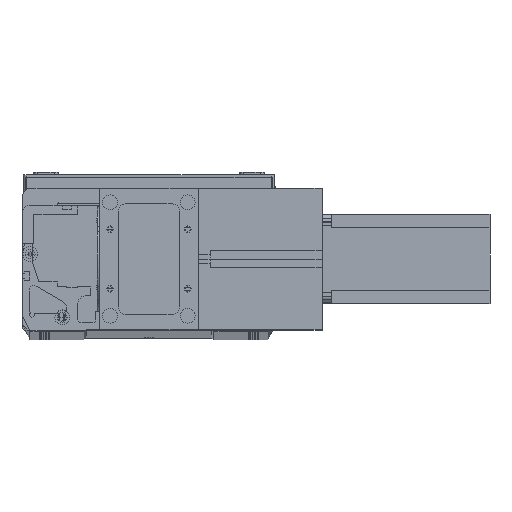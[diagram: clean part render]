
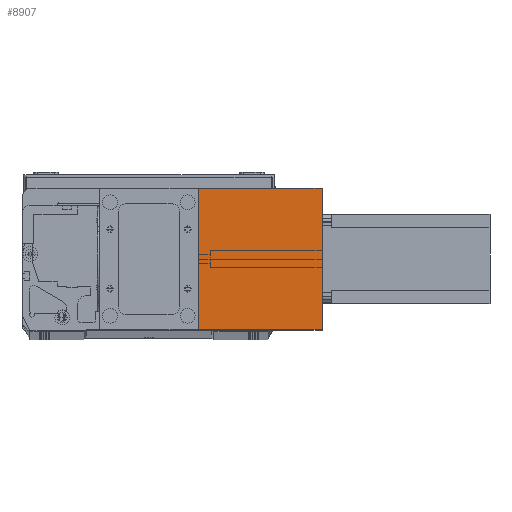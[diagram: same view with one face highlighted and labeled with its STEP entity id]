
A CAD part, top view. The second image highlights one B-rep face of the part: STEP entity #8907.
In plain terms, the highlighted planar face has unit normal (0, 0, 1) as drawn and (1, 0, 0) by its records, which use the part's own axes.
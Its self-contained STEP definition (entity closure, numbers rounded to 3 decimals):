
#1008 = VECTOR ( 'NONE', #29079, 1000. ) ;
#1607 = VERTEX_POINT ( 'NONE', #4510 ) ;
#4510 = CARTESIAN_POINT ( 'NONE',  ( 82., 95., 83. ) ) ;
#5757 = VECTOR ( 'NONE', #25900, 1000. ) ;
#6586 = VECTOR ( 'NONE', #14716, 1000. ) ;
#7299 = LINE ( 'NONE', #8988, #5757 ) ;
#7317 = DIRECTION ( 'NONE',  ( 0., 0., -1. ) ) ;
#7322 = LINE ( 'NONE', #12238, #6586 ) ;
#7683 = LINE ( 'NONE', #14764, #1008 ) ;
#7734 = LINE ( 'NONE', #24232, #26287 ) ;
#8689 = CARTESIAN_POINT ( 'NONE',  ( 82., 0., 83. ) ) ;
#8907 = ADVANCED_FACE ( 'NONE', ( #17819 ), #9125, .F. ) ;
#8909 = DIRECTION ( 'NONE',  ( -1., 0., 0. ) ) ;
#8988 = CARTESIAN_POINT ( 'NONE',  ( 82., 95., 83. ) ) ;
#9125 = PLANE ( 'NONE',  #27420 ) ;
#9436 = DIRECTION ( 'NONE',  ( 0., 0., 1. ) ) ;
#9825 = CARTESIAN_POINT ( 'NONE',  ( 82., 0., 83. ) ) ;
#9863 = ORIENTED_EDGE ( 'NONE', *, *, #26375, .T. ) ;
#12238 = CARTESIAN_POINT ( 'NONE',  ( 82., 0., 0. ) ) ;
#13681 = ORIENTED_EDGE ( 'NONE', *, *, #28342, .F. ) ;
#14716 = DIRECTION ( 'NONE',  ( 0., 1., 0. ) ) ;
#14764 = CARTESIAN_POINT ( 'NONE',  ( 82., 0., 83. ) ) ;
#17819 = FACE_OUTER_BOUND ( 'NONE', #20119, .T. ) ;
#19487 = VERTEX_POINT ( 'NONE', #29340 ) ;
#20119 = EDGE_LOOP ( 'NONE', ( #23767, #13681, #27440, #9863 ) ) ;
#20341 = VERTEX_POINT ( 'NONE', #9825 ) ;
#21856 = VERTEX_POINT ( 'NONE', #28754 ) ;
#23767 = ORIENTED_EDGE ( 'NONE', *, *, #27343, .T. ) ;
#24232 = CARTESIAN_POINT ( 'NONE',  ( 82., 0., 83. ) ) ;
#25900 = DIRECTION ( 'NONE',  ( 0., 0., -1. ) ) ;
#26287 = VECTOR ( 'NONE', #7317, 1000. ) ;
#26375 = EDGE_CURVE ( 'NONE', #20341, #19487, #7734, .T. ) ;
#27343 = EDGE_CURVE ( 'NONE', #19487, #21856, #7322, .T. ) ;
#27420 = AXIS2_PLACEMENT_3D ( 'NONE', #8689, #8909, #9436 ) ;
#27440 = ORIENTED_EDGE ( 'NONE', *, *, #28504, .F. ) ;
#28342 = EDGE_CURVE ( 'NONE', #1607, #21856, #7299, .T. ) ;
#28504 = EDGE_CURVE ( 'NONE', #20341, #1607, #7683, .T. ) ;
#28754 = CARTESIAN_POINT ( 'NONE',  ( 82., 95., 0. ) ) ;
#29079 = DIRECTION ( 'NONE',  ( 0., 1., 0. ) ) ;
#29340 = CARTESIAN_POINT ( 'NONE',  ( 82., 0., 0. ) ) ;
